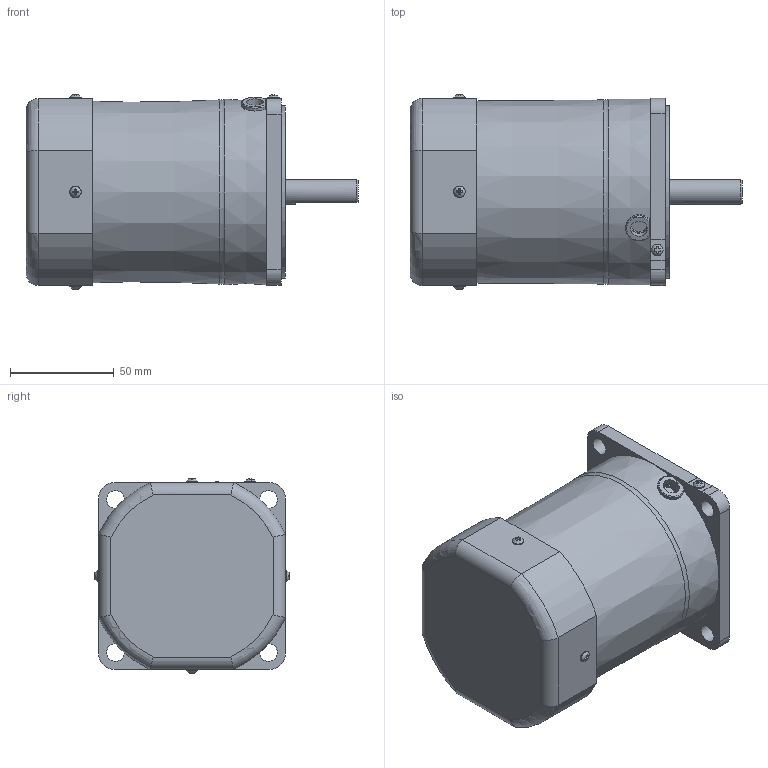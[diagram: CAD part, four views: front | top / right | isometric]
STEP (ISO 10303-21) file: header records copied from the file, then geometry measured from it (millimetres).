
FILE_DESCRIPTION(/* description */ (''),/* implementation_level */ '2;1');
FILE_NAME(/* name */ 'Y:\제품연구개발\3. 도면\3. 고객배포용\3D_홈페이지용\01-1 Standard AC SG Series\0704) 미주향 SG 도면\3D MOTOR\REVERSIBLE\SG9R60D\SG9R60D.stp',/* time_stamp */ '2023-11-23T10:37:09+09:00',/* author */ ('shyi1037'),/* organization */ (''),/* preprocessor_version */ 'ST-DEVELOPER v18.1',/* originating_system */ 'Autodesk Inventor 2022',/* authorisation */ '');
FILE_SCHEMA (('AUTOMOTIVE_DESIGN { 1 0 10303 214 3 1 1 }'));
Length unit declared in the file: millimetre
Products named in the file (5): S9I60G_Ciam; S9I60GㅁCE; 6_CORD BUSH; FAN COVER; S9_60_HOUSING A
Assembly tree (4 placements, depth 2):
  S9I60G_Ciam
    S9I60GㅁCE
    6_CORD BUSH
    FAN COVER
    S9_60_HOUSING A
Bounding box: 159.8 x 93.89 x 93.89 mm (x, y, z)
Volume: 875770.9 mm3; surface area: 86062.6 mm2
Topology: 4 solids, 8 shells, 210 faces, 530 edges, 349 vertices
Faces by surface type: plane 132, cylinder 49, torus 14, cone 10, bspline 5
Full cylindrical faces by diameter (mm): 3 x8, 3.5 x4, 5.6 x5, 8 x1, 8.5 x4, 10 x1, 12 x1, 40 x1, 83 x1, 86 x1
Entity records: 7117 total; most frequent: CARTESIAN_POINT 1893, ORIENTED_EDGE 1060, DIRECTION 1019, EDGE_CURVE 530, AXIS2_PLACEMENT_3D 368, VERTEX_POINT 349, LINE 283, VECTOR 283
